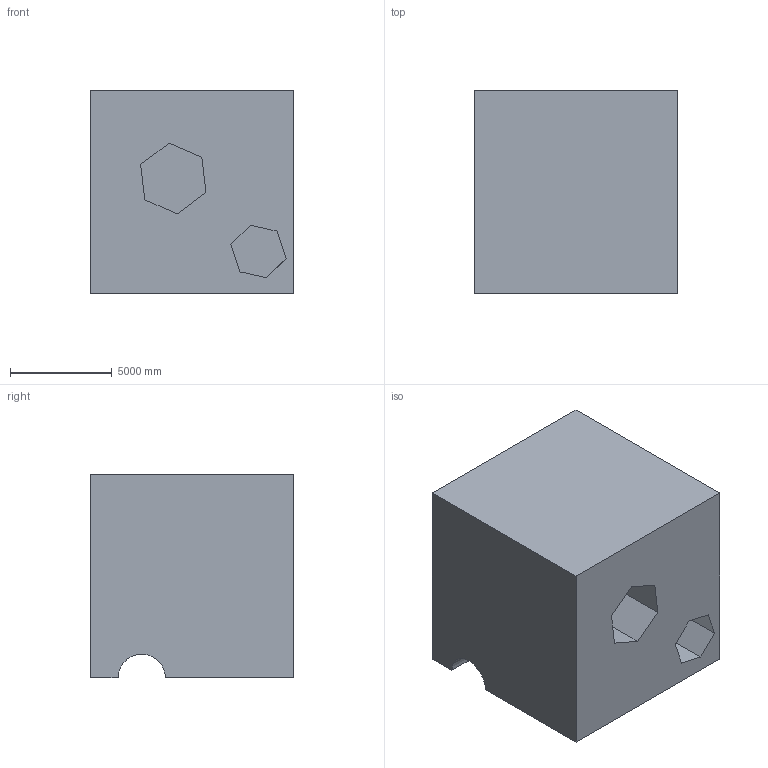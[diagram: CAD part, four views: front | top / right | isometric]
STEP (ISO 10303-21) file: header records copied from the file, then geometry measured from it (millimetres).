
FILE_DESCRIPTION (( 'STEP AP203' ), '1' );
FILE_NAME ('129.STEP', '2022-09-06T15:09:27', ( 'user' ), ( '' ), 'SwSTEP 2.0', 'SolidWorks 2021', '' );
FILE_SCHEMA (( 'CONFIG_CONTROL_DESIGN' ));
Length unit declared in the file: centimetre
Products named in the file (1): 129
Bounding box: 10000 x 10000 x 10000 mm (x, y, z)
Volume: 895939916884.3 mm3; surface area: 729475564 mm2
Topology: 1 solids, 1 shells, 24 faces, 66 edges, 44 vertices
Faces by surface type: plane 22, cylinder 2
Entity records: 835 total; most frequent: CARTESIAN_POINT 153, ORIENTED_EDGE 132, DIRECTION 114, EDGE_CURVE 66, LINE 56, VECTOR 56, VERTEX_POINT 44, AXIS2_PLACEMENT_3D 29
